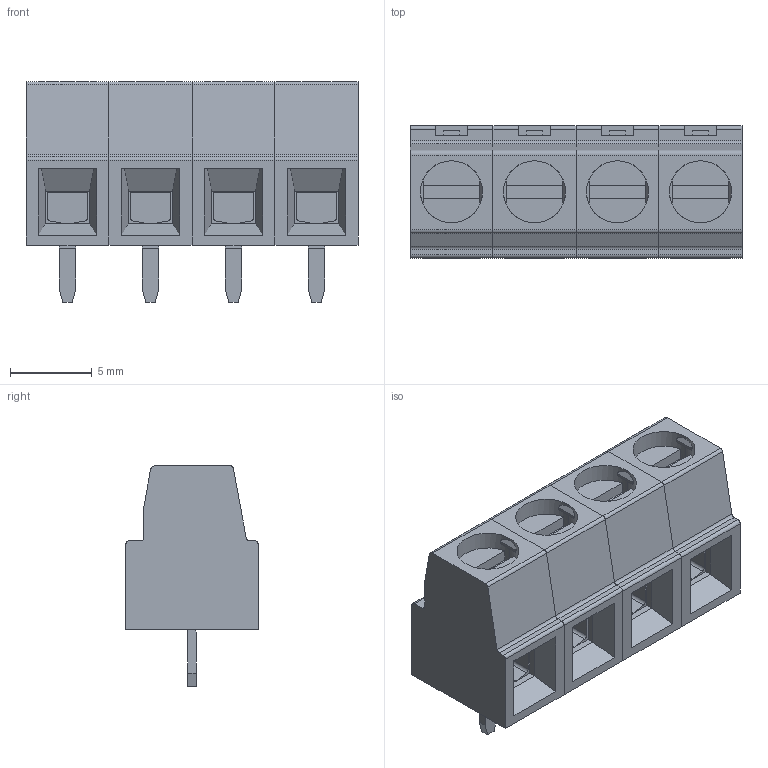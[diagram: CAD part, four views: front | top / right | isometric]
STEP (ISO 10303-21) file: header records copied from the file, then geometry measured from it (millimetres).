
FILE_DESCRIPTION(('STEP AP242'),'1');
FILE_NAME('691241510004.stp','2022-08-15T13:38:36',('TraceParts'),('TraceParts S.A.'),'Spatial InterOp 3D',' ',' ');
FILE_SCHEMA(('AP242_MANAGED_MODEL_BASED_3D_ENGINEERING_MIM_LF {1 0 10303 442 1 1 4}'));
Length unit declared in the file: millimetre
Products named in the file (1): 691241510004_1
Bounding box: 20.32 x 8.1 x 13.5 mm (x, y, z)
Volume: 1127.3 mm3; surface area: 1821.7 mm2
Topology: 4 solids, 4 shells, 536 faces, 1512 edges, 972 vertices
Faces by surface type: plane 440, cylinder 96
Entity records: 21446 total; most frequent: CARTESIAN_POINT 3024, ORIENTED_EDGE 3024, DIRECTION 2862, EDGE_CURVE 1512, LINE 1242, VECTOR 1242, VERTEX_POINT 972, AXIS2_PLACEMENT_3D 810
